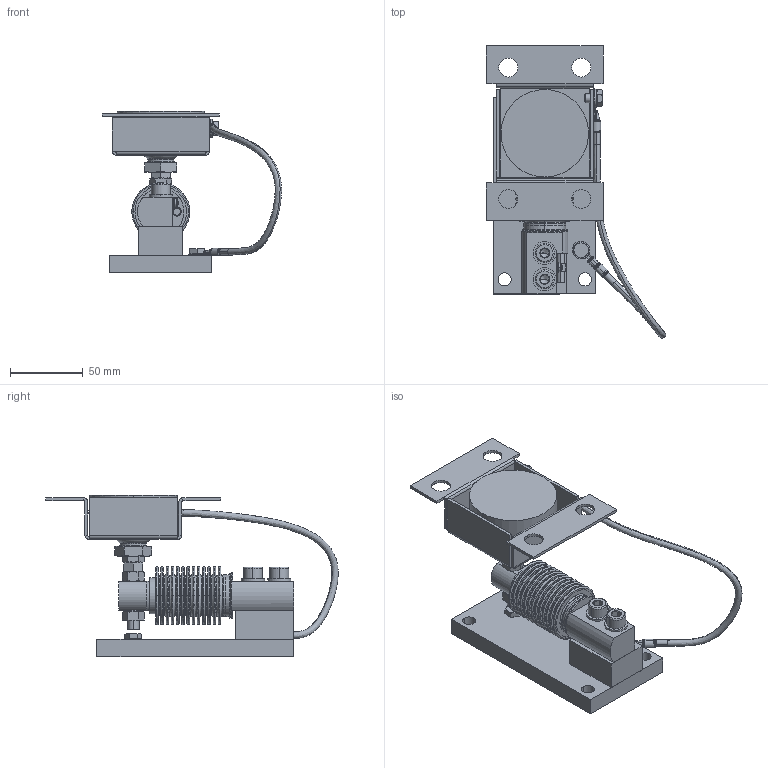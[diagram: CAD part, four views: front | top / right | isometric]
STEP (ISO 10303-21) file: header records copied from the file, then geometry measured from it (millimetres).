
FILE_DESCRIPTION((''),'1');
FILE_NAME('LMLAG_standard.step','2020-06-29T09:04:14',(''),(''),'','','');
FILE_SCHEMA(('AUTOMOTIVE_DESIGN { 1 0 10303 214 1 1 1 1 }'));
Products named in the file (29): LMLAG standard; LMLAG part 03; LMLAG part 04; LMLAG part 06; LMLAG cable 01; LMLAG part 07; LMLAG cable 02; LMLAG screw 01; LMLAG screw 02; LMLAG part 08; LMLAG nut 01; LMLAG part 09; LMLAG base 01; LMLAG part 10; LMLAG nut 03; LMLAG screw 03; LMLAG screw 04; LMLAG load cell 01; LMLAG body 01; LMLAG screw 05; LMLAG washer 01; LMLAG part 11; LMLAG cable 03; LMLAG part 12; LMLAG screw 06; LMLAG screw 07; LMLAG part 13
Assembly tree (36 placements, depth 4):
  LMLAG standard
    LMLAG standard
    LMLAG part 07
      LMLAG part 03
        LMLAG part 04
        LMLAG part 06
        LMLAG cable 01
      LMLAG part 03
        LMLAG part 04
        LMLAG part 06
        LMLAG cable 01
      LMLAG cable 02
    LMLAG screw 01  x2
    LMLAG screw 02
    LMLAG part 08
      LMLAG nut 01
      LMLAG part 09
      LMLAG base 01
    LMLAG part 10
    LMLAG nut 03  x3
    LMLAG screw 03  x2
    LMLAG screw 04  x2
    LMLAG load cell 01
      LMLAG body 01
      LMLAG screw 05
      LMLAG washer 01
      LMLAG part 11
      LMLAG cable 03
    LMLAG part 12
    LMLAG screw 06
    LMLAG screw 07
    LMLAG part 13
Bounding box: 122.79 x 200.43 x 111 mm (x, y, z)
Volume: 286376.1 mm3; surface area: 147851 mm2
Topology: 30 solids, 36 shells, 1186 faces, 2781 edges, 1715 vertices
Faces by surface type: plane 388, cylinder 288, torus 242, cone 184, bspline 78, extrusion 4, revolution 1, sphere 1
Entity records: 36736 total; most frequent: CARTESIAN_POINT 14346, DIRECTION 4960, ORIENTED_EDGE 4242, EDGE_CURVE 2133, AXIS2_PLACEMENT_3D 2115, VERTEX_POINT 1326, CIRCLE 1186, EDGE_LOOP 1057
